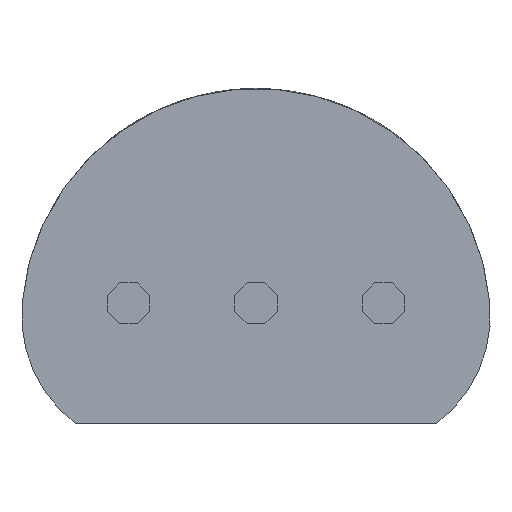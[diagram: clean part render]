
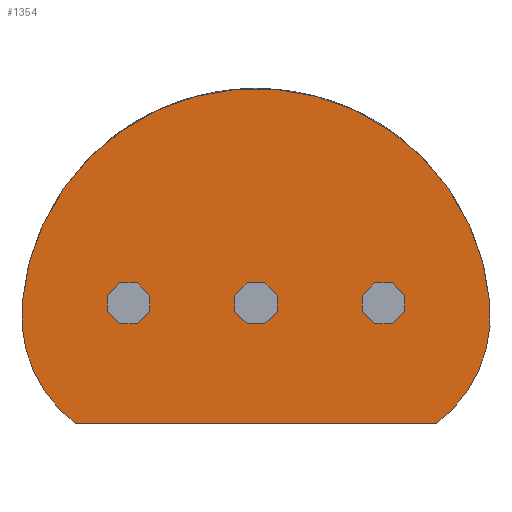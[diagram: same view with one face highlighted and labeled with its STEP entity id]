
A CAD part, front view. The second image highlights one B-rep face of the part: STEP entity #1354.
In plain terms, the highlighted planar face has unit normal (0, -1, 0).
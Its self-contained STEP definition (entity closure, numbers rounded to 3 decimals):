
#98 = CARTESIAN_POINT ( 'NONE',  ( -0.929, -2.16, 1.03 ) ) ;
#186 = DIRECTION ( 'NONE',  ( 0., 0., 1. ) ) ;
#203 = FACE_OUTER_BOUND ( 'NONE', #587, .T. ) ;
#207 = CARTESIAN_POINT ( 'NONE',  ( 1.715, -2.16, 0. ) ) ;
#227 = CARTESIAN_POINT ( 'NONE',  ( -1.715, -2.16, 0. ) ) ;
#282 = EDGE_CURVE ( 'NONE', #990, #687, #725, .T. ) ;
#518 = CARTESIAN_POINT ( 'NONE',  ( -2.22, -2.16, 1.14 ) ) ;
#521 = CIRCLE ( 'NONE', #1608, 2.228 ) ;
#552 = DIRECTION ( 'NONE',  ( 0., 1., 0. ) ) ;
#587 = EDGE_LOOP ( 'NONE', ( #686, #1334, #765, #1511 ) ) ;
#674 = DIRECTION ( 'NONE',  ( 0., 0., -1. ) ) ;
#686 = ORIENTED_EDGE ( 'NONE', *, *, #1519, .F. ) ;
#687 = VERTEX_POINT ( 'NONE', #518 ) ;
#718 = DIRECTION ( 'NONE',  ( 0., 1., 0. ) ) ;
#725 = CIRCLE ( 'NONE', #851, 1.296 ) ;
#765 = ORIENTED_EDGE ( 'NONE', *, *, #282, .F. ) ;
#789 = CARTESIAN_POINT ( 'NONE',  ( 2.22, -2.16, 1.14 ) ) ;
#805 = CIRCLE ( 'NONE', #1213, 1.296 ) ;
#827 = PLANE ( 'NONE',  #1304 ) ;
#851 = AXIS2_PLACEMENT_3D ( 'NONE', #98, #552, #186 ) ;
#896 = DIRECTION ( 'NONE',  ( -1., 0., 0. ) ) ;
#917 = CARTESIAN_POINT ( 'NONE',  ( 0., -2.16, 0.952 ) ) ;
#978 = DIRECTION ( 'NONE',  ( 0., 0., -1. ) ) ;
#990 = VERTEX_POINT ( 'NONE', #227 ) ;
#1025 = CARTESIAN_POINT ( 'NONE',  ( 1.715, -2.16, 0. ) ) ;
#1027 = LINE ( 'NONE', #1025, #1367 ) ;
#1052 = DIRECTION ( 'NONE',  ( 0., 1., 0. ) ) ;
#1060 = DIRECTION ( 'NONE',  ( 0., 0., 1. ) ) ;
#1074 = VERTEX_POINT ( 'NONE', #207 ) ;
#1098 = CARTESIAN_POINT ( 'NONE',  ( 0.929, -2.16, 1.03 ) ) ;
#1200 = EDGE_CURVE ( 'NONE', #1074, #990, #1027, .T. ) ;
#1213 = AXIS2_PLACEMENT_3D ( 'NONE', #1098, #718, #674 ) ;
#1304 = AXIS2_PLACEMENT_3D ( 'NONE', #1508, #1643, #978 ) ;
#1334 = ORIENTED_EDGE ( 'NONE', *, *, #1666, .F. ) ;
#1354 = ADVANCED_FACE ( 'NONE', ( #203 ), #827, .T. ) ;
#1367 = VECTOR ( 'NONE', #896, 1000. ) ;
#1508 = CARTESIAN_POINT ( 'NONE',  ( 0.929, -2.16, 1.03 ) ) ;
#1511 = ORIENTED_EDGE ( 'NONE', *, *, #1200, .F. ) ;
#1519 = EDGE_CURVE ( 'NONE', #1672, #1074, #805, .T. ) ;
#1608 = AXIS2_PLACEMENT_3D ( 'NONE', #917, #1052, #1060 ) ;
#1643 = DIRECTION ( 'NONE',  ( 0., -1., 0. ) ) ;
#1666 = EDGE_CURVE ( 'NONE', #687, #1672, #521, .T. ) ;
#1672 = VERTEX_POINT ( 'NONE', #789 ) ;
